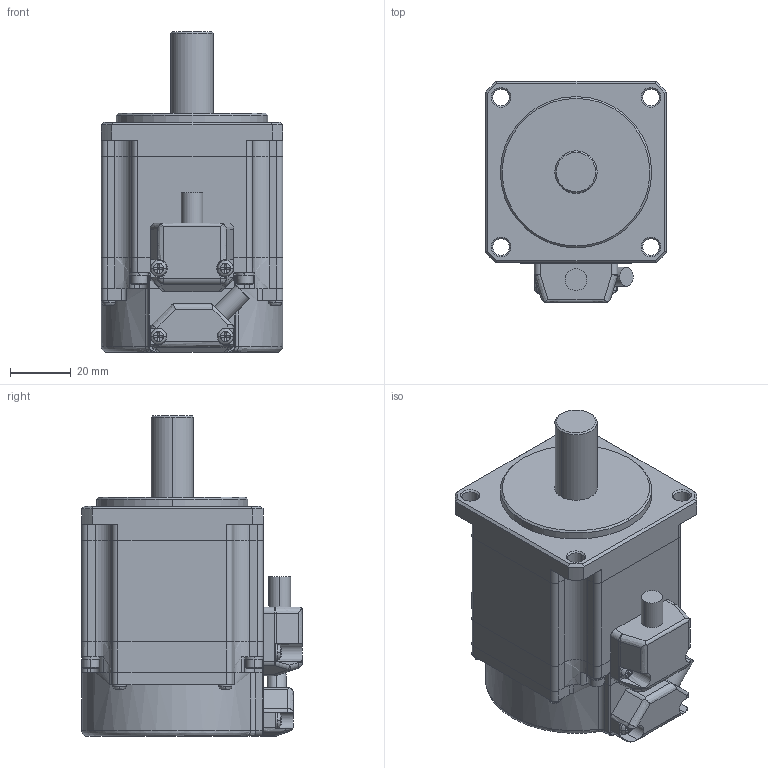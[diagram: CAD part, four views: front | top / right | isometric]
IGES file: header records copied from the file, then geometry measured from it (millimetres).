
Start section: Elysium IGES Interface
Global section: file name: 79H\\nas63\design\04MC研\saka\3DCAD\TBL-i2カタログまとめ\IGSデータ\TS4607_BK無.igs; native system: Creo Elements/Direct Modeling 17.0F  20-Aug-2012; preprocessor: Creo Element/Direct IGES_3D V2.2; author: Unknown; organization: Unknown; date: 20161222.162105; units: millimetre
Bounding box: 60 x 73 x 106.1 mm (x, y, z)
Volume: 259786.8 mm3; surface area: 28202.6 mm2
Topology: 1 solids, 1 shells, 684 faces, 1571 edges, 884 vertices
Faces by surface type: bspline 684
